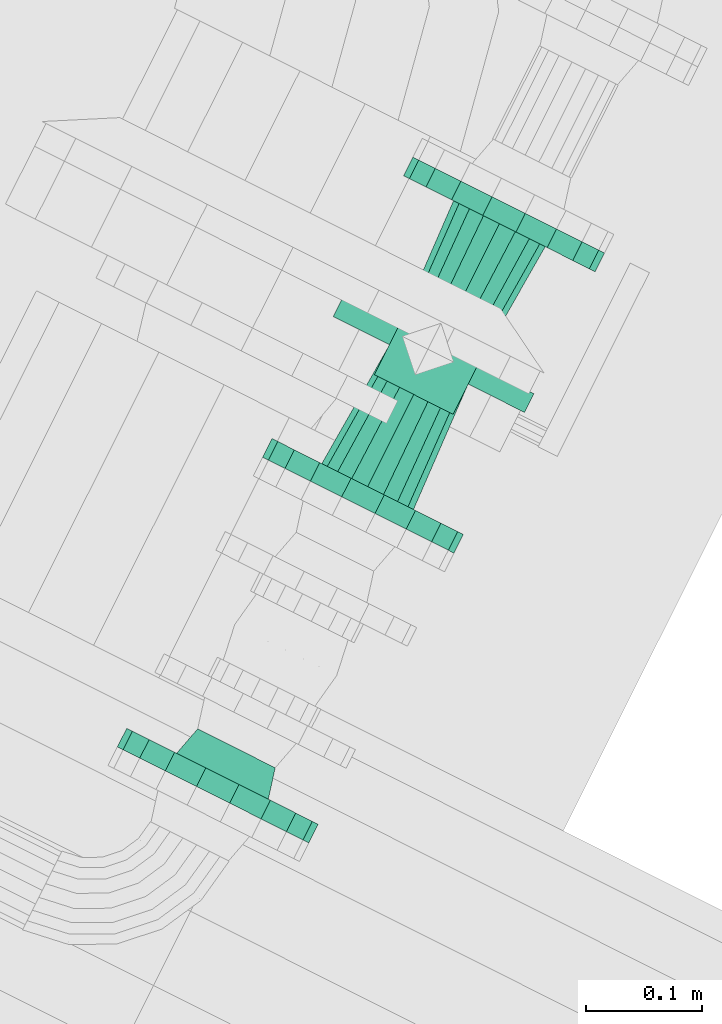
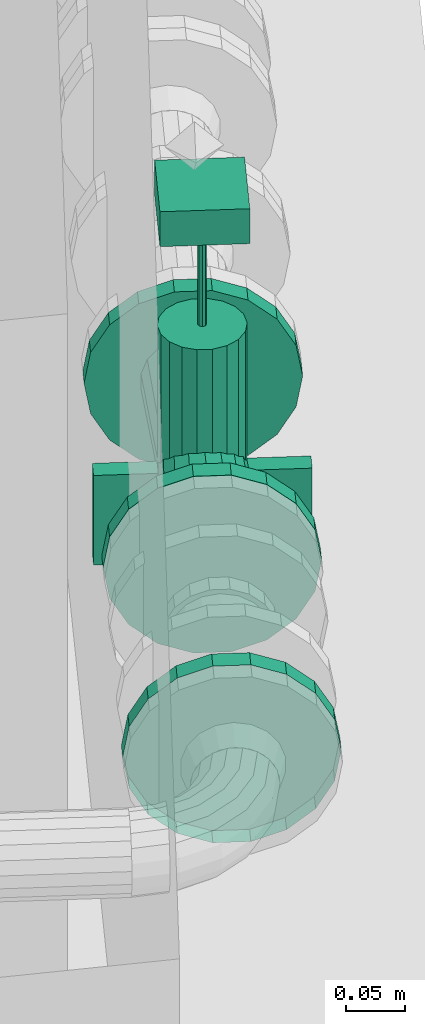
# One storey, part 54 of 206: 1 flow controller, 1 flow fitting.
"""IFC2X3 building model written with IfcOpenShell, lengths in metres."""

from ifc_helpers import new_model, si_unit, derived_unit, direction, frame, origin, place, context, subcontext, project, spatial, face_set, surface_model, source, transform, mapped, material, type_object, type_shapes, element, save


model = new_model("IFC2X3")

# Units and contexts
model_context = context("Model", 3, precision=5.2338327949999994e-05, world=origin(), true_north=direction((0.0, 1.0)))
body_context = subcontext(model_context, "Body", "Model", "MODEL_VIEW")
ifc_project = project(units=[si_unit("LENGTHUNIT", "METRE"), si_unit("AREAUNIT", "SQUARE_METRE"), si_unit("VOLUMEUNIT", "CUBIC_METRE"), si_unit("MASSUNIT", "GRAM", prefix="KILO"), si_unit("PLANEANGLEUNIT", "RADIAN"), derived_unit("THERMALTRANSMITTANCEUNIT", [(si_unit("MASSUNIT", "GRAM", prefix="KILO"), 1), (si_unit("THERMODYNAMICTEMPERATUREUNIT", "KELVIN"), -1), (si_unit("TIMEUNIT", "SECOND"), -3)])], contexts=[model_context])

# Site, building, storey
site_placement = place(None, frame((0.0, 0.0, 0.0), z_axis=(0.0, 0.0, 1.0), x_axis=(0.8939966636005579, -0.4480736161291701, 0.0)))
site = spatial("IfcSite", under=ifc_project, at=site_placement, Name="Default", CompositionType="ELEMENT")
building_placement = place(site_placement, origin())
building = spatial("IfcBuilding", under=site, at=building_placement, CompositionType="ELEMENT")
storey_placement = place(building_placement, origin())
storey = spatial("IfcBuildingStorey", under=building, at=storey_placement, Name="Erdgeschoss", CompositionType="ELEMENT", Elevation=0.0)

# Flow fitting
ifc_material = material(Name="IfcSurfaceStyle #352577")
distribution_element_type_1 = type_object("IfcDistributionElementType", Name="Flansch 604408:Flansch 604408", material=ifc_material)
shared_shape_1 = source(origin(), body_context, "Body", "SurfaceModel", [
    surface_model("IfcFaceBasedSurfaceModel", [(27.445642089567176, 5.012958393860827, 0.8319499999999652), (27.458655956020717, 5.012958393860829, 0.834244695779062), (27.46103299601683, 4.985958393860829, 0.8277138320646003), (27.445642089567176, 4.985958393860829, 0.8249999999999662), (27.47010015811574, 5.01295839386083, 0.8408520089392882), (27.474567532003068, 4.985958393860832, 0.8355280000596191), (27.478594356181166, 5.01295839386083, 0.8509749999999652), (27.48461323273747, 4.985958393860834, 0.8474999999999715), (27.48311402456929, 5.012958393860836, 0.8633926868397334), (27.489958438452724, 4.985958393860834, 0.8621858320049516), (27.483114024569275, 5.012958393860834, 0.8766073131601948), (27.48995843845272, 4.985958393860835, 0.877814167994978), (27.478594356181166, 5.012958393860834, 0.8890249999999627), (27.484613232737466, 4.985958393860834, 0.8924999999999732), (27.47010015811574, 5.012958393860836, 0.8991479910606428), (27.474567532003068, 4.985958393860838, 0.9044719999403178), (27.458655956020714, 5.012958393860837, 0.9057553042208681), (27.461032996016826, 4.985958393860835, 0.9122861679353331), (27.445642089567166, 5.012958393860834, 0.9080499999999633), (27.44564208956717, 4.985958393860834, 0.9149999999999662), (27.43262822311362, 5.012958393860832, 0.9057553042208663), (27.430251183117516, 4.985958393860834, 0.9122861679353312), (27.421184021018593, 5.012958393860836, 0.8991479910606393), (27.416716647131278, 4.985958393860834, 0.9044719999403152), (27.412689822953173, 5.012958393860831, 0.8890249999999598), (27.406670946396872, 4.9859583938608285, 0.8924999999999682), (27.40817015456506, 5.012958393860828, 0.8766073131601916), (27.401325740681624, 4.985958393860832, 0.8778141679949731), (27.40817015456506, 5.012958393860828, 0.8633926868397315), (27.40132574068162, 4.9859583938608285, 0.862185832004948), (27.412689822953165, 5.012958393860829, 0.8509749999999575), (27.406670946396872, 4.985958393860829, 0.8474999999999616), (27.421184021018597, 5.012958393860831, 0.8408520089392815), (27.416716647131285, 4.9859583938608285, 0.8355280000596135), (27.432628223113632, 5.012958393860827, 0.8342446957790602), (27.430251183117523, 4.985958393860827, 0.8277138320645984), (27.538142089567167, 4.985958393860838, 0.869999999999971), (27.53256365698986, 4.985958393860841, 0.9016368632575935), (27.53256365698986, 4.967958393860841, 0.9016368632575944), (27.538142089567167, 4.9679583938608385, 0.8699999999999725), (27.516501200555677, 4.985958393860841, 0.9294578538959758), (27.516501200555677, 4.96795839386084, 0.9294578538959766), (27.491892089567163, 4.985958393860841, 0.9501073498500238), (27.49189208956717, 4.967958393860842, 0.9501073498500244), (27.46170454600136, 4.985958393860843, 0.9610947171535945), (27.46170454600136, 4.96795839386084, 0.9610947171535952), (27.429579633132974, 4.985958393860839, 0.9610947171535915), (27.42957963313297, 4.9679583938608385, 0.9610947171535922), (27.399392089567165, 4.985958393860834, 0.9501073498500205), (27.39939208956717, 4.967958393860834, 0.9501073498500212), (27.374782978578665, 4.985958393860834, 0.9294578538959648), (27.374782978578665, 4.967958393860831, 0.9294578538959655), (27.358720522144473, 4.985958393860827, 0.9016368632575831), (27.358720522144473, 4.967958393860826, 0.9016368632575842), (27.353142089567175, 4.985958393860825, 0.8699999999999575), (27.35314208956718, 4.967958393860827, 0.869999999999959), (27.358720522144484, 4.985958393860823, 0.8383631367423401), (27.358720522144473, 4.9679583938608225, 0.8383631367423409), (27.37478297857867, 4.985958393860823, 0.8105421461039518), (27.37478297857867, 4.9679583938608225, 0.8105421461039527), (27.39939208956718, 4.985958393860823, 0.7898926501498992), (27.399392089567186, 4.9679583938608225, 0.7898926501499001), (27.42957963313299, 4.985958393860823, 0.778905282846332), (27.42957963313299, 4.967958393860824, 0.778905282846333), (27.461704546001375, 4.985958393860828, 0.7789052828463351), (27.461704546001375, 4.967958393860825, 0.7789052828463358), (27.49189208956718, 4.985958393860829, 0.7898926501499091), (27.49189208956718, 4.96795839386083, 0.7898926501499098), (27.516501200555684, 4.985958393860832, 0.8105421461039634), (27.516501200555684, 4.967958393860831, 0.8105421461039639), (27.532563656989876, 4.9859583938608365, 0.8383631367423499), (27.532563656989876, 4.967958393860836, 0.8383631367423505), (27.445642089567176, 4.985958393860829, 0.8699999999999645)], [face_set([[[0, 1, 2, 3]], [[1, 4, 5, 2]], [[4, 6, 7, 5]], [[6, 8, 9, 7]], [[8, 10, 11, 9]], [[10, 12, 13, 11]], [[12, 14, 15, 13]], [[14, 16, 17, 15]], [[16, 18, 19, 17]], [[18, 20, 21, 19]], [[20, 22, 23, 21]], [[22, 24, 25, 23]], [[24, 26, 27, 25]], [[26, 28, 29, 27]], [[28, 30, 31, 29]], [[30, 32, 33, 31]], [[32, 34, 35, 33]], [[34, 0, 3, 35]], [[36, 37, 38, 39]], [[37, 40, 41, 38]], [[40, 42, 43, 41]], [[42, 44, 45, 43]], [[44, 46, 47, 45]], [[46, 48, 49, 47]], [[48, 50, 51, 49]], [[50, 52, 53, 51]], [[52, 54, 55, 53]], [[54, 56, 57, 55]], [[56, 58, 59, 57]], [[58, 60, 61, 59]], [[60, 62, 63, 61]], [[62, 64, 65, 63]], [[64, 66, 67, 65]], [[66, 68, 69, 67]], [[68, 70, 71, 69]], [[70, 36, 39, 71]], [[72, 37, 36]], [[72, 40, 37]], [[72, 42, 40]], [[72, 44, 42]], [[72, 46, 44]], [[72, 48, 46]], [[72, 50, 48]], [[72, 52, 50]], [[72, 54, 52]], [[72, 56, 54]], [[72, 58, 56]], [[72, 60, 58]], [[72, 62, 60]], [[72, 64, 62]], [[72, 66, 64]], [[72, 68, 66]], [[72, 70, 68]], [[72, 36, 70]]])]),
])
type_shapes(distribution_element_type_1, [shared_shape_1])
flow_fitting_placement = place(storey_placement, origin())
element("IfcFlowFitting", 1, at=flow_fitting_placement, inside=storey, type_object=distribution_element_type_1, material=ifc_material, Name="Flansch", ObjectType="Flansch", context=body_context, shape_type="MappedRepresentation", body=[
    mapped(shared_shape_1, transform((0.0, 0.0, 0.0), scale=1.0)),
])

# Flow controller
distribution_element_type_2 = type_object("IfcDistributionElementType", Name="Schieber 604454:Schieber 604454", material=ifc_material)
shared_shape_2 = source(origin(), body_context, "Body", "SurfaceModel", [
    surface_model("IfcFaceBasedSurfaceModel", [(27.407592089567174, 5.4310083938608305, 1.1239999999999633), (27.407592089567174, 5.35490839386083, 1.1239999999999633), (27.483692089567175, 5.35490839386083, 1.1239999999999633), (27.483692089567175, 5.4310083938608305, 1.1239999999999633), (27.483692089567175, 5.35490839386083, 1.1599999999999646), (27.483692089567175, 5.4310083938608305, 1.1599999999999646), (27.407592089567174, 5.35490839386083, 1.1599999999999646), (27.407592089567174, 5.4310083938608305, 1.1599999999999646), (27.538142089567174, 5.537958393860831, 0.8699999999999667), (27.532563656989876, 5.537958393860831, 0.9016368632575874), (27.532563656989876, 5.519958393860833, 0.9016368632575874), (27.538142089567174, 5.519958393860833, 0.8699999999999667), (27.516501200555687, 5.537958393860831, 0.9294578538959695), (27.516501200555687, 5.519958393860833, 0.9294578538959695), (27.491892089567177, 5.537958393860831, 0.9501073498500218), (27.491892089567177, 5.519958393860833, 0.9501073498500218), (27.461704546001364, 5.537958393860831, 0.9610947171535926), (27.461704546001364, 5.519958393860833, 0.9610947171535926), (27.429579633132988, 5.537958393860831, 0.9610947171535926), (27.429579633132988, 5.519958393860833, 0.9610947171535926), (27.399392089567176, 5.537958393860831, 0.9501073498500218), (27.399392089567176, 5.519958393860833, 0.9501073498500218), (27.37478297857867, 5.537958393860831, 0.9294578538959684), (27.37478297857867, 5.519958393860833, 0.9294578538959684), (27.358720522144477, 5.537958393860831, 0.9016368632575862), (27.358720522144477, 5.519958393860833, 0.9016368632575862), (27.35314208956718, 5.537958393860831, 0.8699999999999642), (27.35314208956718, 5.519958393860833, 0.8699999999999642), (27.358720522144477, 5.537958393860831, 0.8383631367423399), (27.358720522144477, 5.519958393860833, 0.8383631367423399), (27.37478297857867, 5.537958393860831, 0.8105421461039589), (27.37478297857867, 5.519958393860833, 0.8105421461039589), (27.399392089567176, 5.537958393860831, 0.7898926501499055), (27.399392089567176, 5.519958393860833, 0.7898926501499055), (27.429579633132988, 5.537958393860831, 0.7789052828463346), (27.429579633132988, 5.519958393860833, 0.7789052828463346), (27.461704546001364, 5.537958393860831, 0.7789052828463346), (27.461704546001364, 5.519958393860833, 0.7789052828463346), (27.491892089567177, 5.537958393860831, 0.7898926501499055), (27.491892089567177, 5.519958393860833, 0.7898926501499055), (27.516501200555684, 5.537958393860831, 0.8105421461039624), (27.516501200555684, 5.519958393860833, 0.8105421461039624), (27.532563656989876, 5.537958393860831, 0.8383631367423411), (27.532563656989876, 5.519958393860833, 0.8383631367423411), (27.44564208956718, 5.53795839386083, 0.8699999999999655), (27.44564208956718, 5.519958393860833, 0.8699999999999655), (27.44564208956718, 5.519958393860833, 0.8249999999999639), (27.46103299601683, 5.519958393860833, 0.8277138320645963), (27.458655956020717, 5.392958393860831, 0.8342446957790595), (27.44564208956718, 5.392958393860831, 0.8319499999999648), (27.474567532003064, 5.519958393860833, 0.8355280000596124), (27.470100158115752, 5.392958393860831, 0.840852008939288), (27.484613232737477, 5.519958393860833, 0.8474999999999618), (27.478594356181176, 5.392958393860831, 0.8509749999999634), (27.48995843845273, 5.519958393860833, 0.8621858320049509), (27.48311402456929, 5.392958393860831, 0.8633926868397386), (27.489958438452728, 5.519958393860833, 0.8778141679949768), (27.48311402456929, 5.392958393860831, 0.8766073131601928), (27.484613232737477, 5.519958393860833, 0.8924999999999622), (27.478594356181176, 5.392958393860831, 0.8890249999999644), (27.474567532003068, 5.519958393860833, 0.9044719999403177), (27.470100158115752, 5.392958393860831, 0.8991479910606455), (27.46103299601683, 5.519958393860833, 0.9122861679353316), (27.458655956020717, 5.392958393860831, 0.9057553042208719), (27.44564208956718, 5.519958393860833, 0.9149999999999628), (27.44564208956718, 5.392958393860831, 0.9080499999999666), (27.430251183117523, 5.519958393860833, 0.9122861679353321), (27.432628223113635, 5.392958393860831, 0.9057553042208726), (27.416716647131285, 5.519958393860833, 0.9044719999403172), (27.421184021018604, 5.392958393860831, 0.8991479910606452), (27.40667094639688, 5.519958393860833, 0.8924999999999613), (27.412689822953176, 5.392958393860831, 0.8890249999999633), (27.401325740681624, 5.519958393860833, 0.8778141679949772), (27.40817015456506, 5.392958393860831, 0.8766073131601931), (27.401325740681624, 5.519958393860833, 0.8621858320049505), (27.40817015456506, 5.392958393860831, 0.8633926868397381), (27.40667094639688, 5.519958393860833, 0.8474999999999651), (27.412689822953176, 5.392958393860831, 0.8509749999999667), (27.416716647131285, 5.519958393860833, 0.8355280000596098), (27.421184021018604, 5.392958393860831, 0.8408520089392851), (27.430251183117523, 5.519958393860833, 0.8277138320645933), (27.432628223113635, 5.392958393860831, 0.8342446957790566), (27.46103299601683, 5.265958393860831, 0.8277138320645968), (27.44564208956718, 5.265958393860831, 0.8249999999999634), (27.474567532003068, 5.265958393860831, 0.8355280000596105), (27.48461323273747, 5.265958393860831, 0.8474999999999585), (27.489958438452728, 5.265958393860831, 0.8621858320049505), (27.489958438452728, 5.265958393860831, 0.8778141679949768), (27.48461323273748, 5.265958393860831, 0.8924999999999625), (27.474567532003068, 5.265958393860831, 0.9044719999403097), (27.46103299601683, 5.265958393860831, 0.912286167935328), (27.44564208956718, 5.265958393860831, 0.9149999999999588), (27.430251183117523, 5.265958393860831, 0.9122861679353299), (27.416716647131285, 5.265958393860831, 0.904471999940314), (27.40667094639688, 5.265958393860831, 0.8924999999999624), (27.401325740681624, 5.265958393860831, 0.8778141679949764), (27.401325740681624, 5.265958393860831, 0.8621858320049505), (27.40667094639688, 5.265958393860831, 0.8474999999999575), (27.41671664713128, 5.265958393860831, 0.8355280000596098), (27.430251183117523, 5.265958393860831, 0.8277138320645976), (27.538142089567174, 5.265958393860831, 0.8699999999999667), (27.532563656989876, 5.265958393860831, 0.9016368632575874), (27.532563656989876, 5.247958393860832, 0.9016368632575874), (27.538142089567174, 5.247958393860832, 0.8699999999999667), (27.516501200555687, 5.265958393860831, 0.9294578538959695), (27.516501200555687, 5.247958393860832, 0.9294578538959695), (27.491892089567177, 5.265958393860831, 0.9501073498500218), (27.491892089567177, 5.247958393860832, 0.9501073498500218), (27.461704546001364, 5.265958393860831, 0.9610947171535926), (27.461704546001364, 5.247958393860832, 0.9610947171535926), (27.429579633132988, 5.265958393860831, 0.9610947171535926), (27.429579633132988, 5.247958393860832, 0.9610947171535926), (27.399392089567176, 5.265958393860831, 0.9501073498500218), (27.399392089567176, 5.247958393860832, 0.9501073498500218), (27.37478297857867, 5.265958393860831, 0.9294578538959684), (27.37478297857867, 5.247958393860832, 0.9294578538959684), (27.358720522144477, 5.265958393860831, 0.9016368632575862), (27.358720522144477, 5.247958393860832, 0.9016368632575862), (27.35314208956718, 5.265958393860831, 0.8699999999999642), (27.35314208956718, 5.247958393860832, 0.8699999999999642), (27.358720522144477, 5.265958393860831, 0.8383631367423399), (27.358720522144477, 5.247958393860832, 0.8383631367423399), (27.37478297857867, 5.265958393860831, 0.8105421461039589), (27.37478297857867, 5.247958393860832, 0.8105421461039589), (27.399392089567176, 5.265958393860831, 0.7898926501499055), (27.399392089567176, 5.247958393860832, 0.7898926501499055), (27.429579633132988, 5.265958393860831, 0.7789052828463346), (27.429579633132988, 5.247958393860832, 0.7789052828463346), (27.461704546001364, 5.265958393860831, 0.7789052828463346), (27.461704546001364, 5.247958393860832, 0.7789052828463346), (27.491892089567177, 5.265958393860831, 0.7898926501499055), (27.491892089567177, 5.247958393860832, 0.7898926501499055), (27.516501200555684, 5.265958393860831, 0.8105421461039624), (27.516501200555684, 5.247958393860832, 0.8105421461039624), (27.532563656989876, 5.265958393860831, 0.8383631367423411), (27.532563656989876, 5.247958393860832, 0.8383631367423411), (27.44564208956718, 5.265958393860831, 0.8699999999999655), (27.44564208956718, 5.247958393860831, 0.8699999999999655), (27.483692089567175, 5.39295839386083, 0.869999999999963), (27.48139739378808, 5.405972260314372, 0.869999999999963), (27.48139739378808, 5.405972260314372, 1.0160249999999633), (27.483692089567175, 5.39295839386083, 1.0160249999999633), (27.47479008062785, 5.417416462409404, 0.869999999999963), (27.47479008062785, 5.417416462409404, 1.0160249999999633), (27.464667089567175, 5.425910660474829, 0.869999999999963), (27.464667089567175, 5.425910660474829, 1.0160249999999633), (27.4522494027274, 5.430430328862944, 0.869999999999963), (27.4522494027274, 5.430430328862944, 1.0160249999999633), (27.43903477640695, 5.430430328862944, 0.869999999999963), (27.43903477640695, 5.430430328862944, 1.0160249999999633), (27.426617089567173, 5.425910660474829, 0.869999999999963), (27.426617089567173, 5.425910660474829, 1.0160249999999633), (27.416494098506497, 5.417416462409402, 0.869999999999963), (27.416494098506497, 5.417416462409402, 1.0160249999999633), (27.40988678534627, 5.405972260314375, 0.869999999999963), (27.40988678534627, 5.405972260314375, 1.0160249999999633), (27.407592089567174, 5.39295839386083, 0.869999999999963), (27.407592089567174, 5.39295839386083, 1.0160249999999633), (27.40988678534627, 5.379944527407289, 0.869999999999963), (27.40988678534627, 5.379944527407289, 1.0160249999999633), (27.416494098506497, 5.368500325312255, 0.869999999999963), (27.416494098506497, 5.368500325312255, 1.0160249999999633), (27.426617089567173, 5.360006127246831, 0.869999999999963), (27.426617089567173, 5.360006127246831, 1.0160249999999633), (27.43903477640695, 5.355486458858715, 0.869999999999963), (27.43903477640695, 5.355486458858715, 1.0160249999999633), (27.4522494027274, 5.355486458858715, 0.869999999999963), (27.4522494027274, 5.355486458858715, 1.0160249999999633), (27.464667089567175, 5.360006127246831, 0.869999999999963), (27.464667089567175, 5.360006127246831, 1.0160249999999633), (27.47479008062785, 5.368500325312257, 0.869999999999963), (27.47479008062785, 5.368500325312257, 1.0160249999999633), (27.48139739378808, 5.379944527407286, 0.869999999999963), (27.48139739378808, 5.379944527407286, 1.0160249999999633), (27.44564208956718, 5.392958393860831, 0.8699999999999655), (27.445642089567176, 5.39295839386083, 1.016024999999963), (27.449447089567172, 5.39295839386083, 1.0160249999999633), (27.44833263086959, 5.395648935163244, 1.0160249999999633), (27.448332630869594, 5.395648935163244, 1.1239999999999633), (27.449447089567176, 5.39295839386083, 1.1239999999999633), (27.445642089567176, 5.39676339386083, 1.0160249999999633), (27.44564208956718, 5.39676339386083, 1.1239999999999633), (27.44295154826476, 5.395648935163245, 1.0160249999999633), (27.44295154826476, 5.395648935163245, 1.1239999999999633), (27.441837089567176, 5.392958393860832, 1.0160249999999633), (27.441837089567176, 5.392958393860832, 1.1239999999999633), (27.44295154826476, 5.390267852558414, 1.0160249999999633), (27.44295154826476, 5.390267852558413, 1.1239999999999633), (27.445642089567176, 5.38915339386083, 1.0160249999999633), (27.44564208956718, 5.389153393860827, 1.1239999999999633), (27.44833263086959, 5.390267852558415, 1.0160249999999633), (27.448332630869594, 5.390267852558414, 1.1239999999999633), (27.44564208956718, 5.39295839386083, 1.1239999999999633), (27.353142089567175, 5.401958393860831, 0.7774999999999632), (27.353142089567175, 5.38395839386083, 0.7774999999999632), (27.538142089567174, 5.38395839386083, 0.7774999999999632), (27.538142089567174, 5.401958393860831, 0.7774999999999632), (27.538142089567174, 5.38395839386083, 0.869999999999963), (27.538142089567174, 5.401958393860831, 0.869999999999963), (27.353142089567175, 5.38395839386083, 0.869999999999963), (27.353142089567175, 5.401958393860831, 0.869999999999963)], [face_set([[[0, 1, 2, 3]], [[3, 2, 4, 5]], [[5, 4, 6, 7]], [[7, 6, 1, 0]], [[0, 3, 5, 7]], [[6, 4, 2, 1]], [[8, 9, 10, 11]], [[9, 12, 13, 10]], [[12, 14, 15, 13]], [[14, 16, 17, 15]], [[16, 18, 19, 17]], [[18, 20, 21, 19]], [[20, 22, 23, 21]], [[22, 24, 25, 23]], [[24, 26, 27, 25]], [[26, 28, 29, 27]], [[28, 30, 31, 29]], [[30, 32, 33, 31]], [[32, 34, 35, 33]], [[34, 36, 37, 35]], [[36, 38, 39, 37]], [[38, 40, 41, 39]], [[40, 42, 43, 41]], [[42, 8, 11, 43]], [[44, 9, 8]], [[44, 12, 9]], [[44, 14, 12]], [[44, 16, 14]], [[44, 18, 16]], [[44, 20, 18]], [[44, 22, 20]], [[44, 24, 22]], [[44, 26, 24]], [[44, 28, 26]], [[44, 30, 28]], [[44, 32, 30]], [[44, 34, 32]], [[44, 36, 34]], [[44, 38, 36]], [[44, 40, 38]], [[44, 42, 40]], [[44, 8, 42]], [[45, 43, 11]], [[45, 41, 43]], [[45, 39, 41]], [[45, 37, 39]], [[45, 35, 37]], [[45, 33, 35]], [[45, 31, 33]], [[45, 29, 31]], [[45, 27, 29]], [[45, 25, 27]], [[45, 23, 25]], [[45, 21, 23]], [[45, 19, 21]], [[45, 17, 19]], [[45, 15, 17]], [[45, 13, 15]], [[45, 10, 13]], [[45, 11, 10]], [[46, 47, 48, 49]], [[47, 50, 51, 48]], [[50, 52, 53, 51]], [[52, 54, 55, 53]], [[54, 56, 57, 55]], [[56, 58, 59, 57]], [[58, 60, 61, 59]], [[60, 62, 63, 61]], [[62, 64, 65, 63]], [[64, 66, 67, 65]], [[66, 68, 69, 67]], [[68, 70, 71, 69]], [[70, 72, 73, 71]], [[72, 74, 75, 73]], [[74, 76, 77, 75]], [[76, 78, 79, 77]], [[78, 80, 81, 79]], [[80, 46, 49, 81]], [[49, 48, 82, 83]], [[48, 51, 84, 82]], [[51, 53, 85, 84]], [[53, 55, 86, 85]], [[55, 57, 87, 86]], [[57, 59, 88, 87]], [[59, 61, 89, 88]], [[61, 63, 90, 89]], [[63, 65, 91, 90]], [[65, 67, 92, 91]], [[67, 69, 93, 92]], [[69, 71, 94, 93]], [[71, 73, 95, 94]], [[73, 75, 96, 95]], [[75, 77, 97, 96]], [[77, 79, 98, 97]], [[79, 81, 99, 98]], [[81, 49, 83, 99]], [[100, 101, 102, 103]], [[101, 104, 105, 102]], [[104, 106, 107, 105]], [[106, 108, 109, 107]], [[108, 110, 111, 109]], [[110, 112, 113, 111]], [[112, 114, 115, 113]], [[114, 116, 117, 115]], [[116, 118, 119, 117]], [[118, 120, 121, 119]], [[120, 122, 123, 121]], [[122, 124, 125, 123]], [[124, 126, 127, 125]], [[126, 128, 129, 127]], [[128, 130, 131, 129]], [[130, 132, 133, 131]], [[132, 134, 135, 133]], [[134, 100, 103, 135]], [[136, 101, 100]], [[136, 104, 101]], [[136, 106, 104]], [[136, 108, 106]], [[136, 110, 108]], [[136, 112, 110]], [[136, 114, 112]], [[136, 116, 114]], [[136, 118, 116]], [[136, 120, 118]], [[136, 122, 120]], [[136, 124, 122]], [[136, 126, 124]], [[136, 128, 126]], [[136, 130, 128]], [[136, 132, 130]], [[136, 134, 132]], [[136, 100, 134]], [[137, 135, 103]], [[137, 133, 135]], [[137, 131, 133]], [[137, 129, 131]], [[137, 127, 129]], [[137, 125, 127]], [[137, 123, 125]], [[137, 121, 123]], [[137, 119, 121]], [[137, 117, 119]], [[137, 115, 117]], [[137, 113, 115]], [[137, 111, 113]], [[137, 109, 111]], [[137, 107, 109]], [[137, 105, 107]], [[137, 102, 105]], [[137, 103, 102]], [[138, 139, 140, 141]], [[139, 142, 143, 140]], [[142, 144, 145, 143]], [[144, 146, 147, 145]], [[146, 148, 149, 147]], [[148, 150, 151, 149]], [[150, 152, 153, 151]], [[152, 154, 155, 153]], [[154, 156, 157, 155]], [[156, 158, 159, 157]], [[158, 160, 161, 159]], [[160, 162, 163, 161]], [[162, 164, 165, 163]], [[164, 166, 167, 165]], [[166, 168, 169, 167]], [[168, 170, 171, 169]], [[170, 172, 173, 171]], [[172, 138, 141, 173]], [[174, 139, 138]], [[174, 142, 139]], [[174, 144, 142]], [[174, 146, 144]], [[174, 148, 146]], [[174, 150, 148]], [[174, 152, 150]], [[174, 154, 152]], [[174, 156, 154]], [[174, 158, 156]], [[174, 160, 158]], [[174, 162, 160]], [[174, 164, 162]], [[174, 166, 164]], [[174, 168, 166]], [[174, 170, 168]], [[174, 172, 170]], [[174, 138, 172]], [[175, 173, 141]], [[175, 171, 173]], [[175, 169, 171]], [[175, 167, 169]], [[175, 165, 167]], [[175, 163, 165]], [[175, 161, 163]], [[175, 159, 161]], [[175, 157, 159]], [[175, 155, 157]], [[175, 153, 155]], [[175, 151, 153]], [[175, 149, 151]], [[175, 147, 149]], [[175, 145, 147]], [[175, 143, 145]], [[175, 140, 143]], [[175, 141, 140]], [[176, 177, 178, 179]], [[177, 180, 181, 178]], [[180, 182, 183, 181]], [[182, 184, 185, 183]], [[184, 186, 187, 185]], [[186, 188, 189, 187]], [[188, 190, 191, 189]], [[190, 176, 179, 191]], [[192, 191, 179]], [[192, 189, 191]], [[192, 187, 189]], [[192, 185, 187]], [[192, 183, 185]], [[192, 181, 183]], [[192, 178, 181]], [[192, 179, 178]], [[193, 194, 195, 196]], [[196, 195, 197, 198]], [[198, 197, 199, 200]], [[200, 199, 194, 193]], [[193, 196, 198, 200]], [[199, 197, 195, 194]]])]),
])
type_shapes(distribution_element_type_2, [shared_shape_2])
flow_controller_placement = place(storey_placement, origin())
element("IfcFlowController", 2, at=flow_controller_placement, inside=storey, type_object=distribution_element_type_2, material=ifc_material, Name="Schieber", ObjectType="Schieber", context=body_context, shape_type="MappedRepresentation", body=[
    mapped(shared_shape_2, transform((0.0, 0.0, 0.0), scale=1.0)),
])

save(model, "model.ifc")
